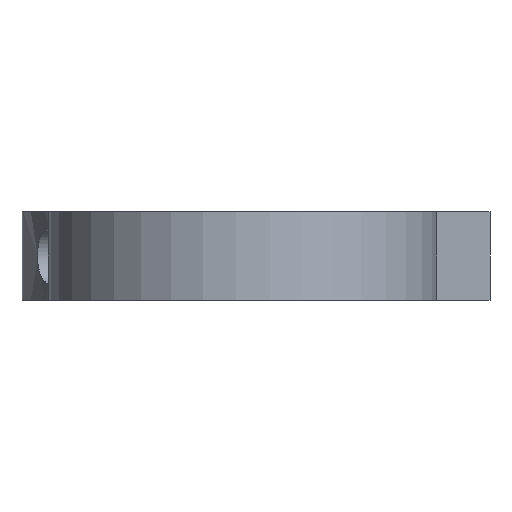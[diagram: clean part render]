
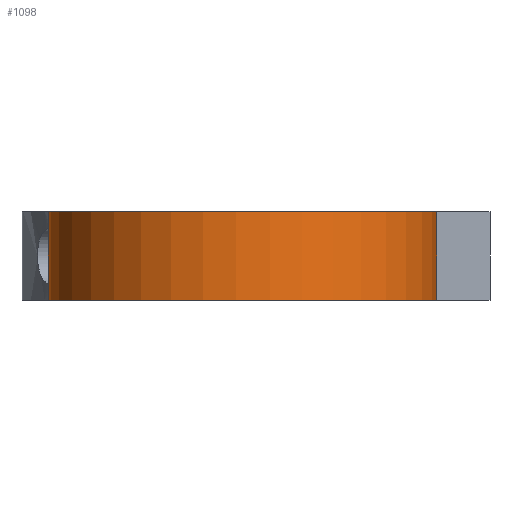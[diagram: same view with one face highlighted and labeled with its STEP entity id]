
A CAD part, front view. The second image highlights one B-rep face of the part: STEP entity #1098.
In plain terms, the highlighted cylindrical face has radius 11 mm (diameter 22 mm), a partial arc.
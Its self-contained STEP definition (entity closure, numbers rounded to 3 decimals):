
#62 = PLANE('',#63);
#63 = AXIS2_PLACEMENT_3D('',#64,#65,#66);
#64 = CARTESIAN_POINT('',(7.55,-34.,0.));
#65 = DIRECTION('',(0.,1.,0.));
#66 = DIRECTION('',(1.,0.,0.));
#90 = PLANE('',#91);
#91 = AXIS2_PLACEMENT_3D('',#92,#93,#94);
#92 = CARTESIAN_POINT('',(0.,0.,5.));
#93 = DIRECTION('',(0.,0.,1.));
#94 = DIRECTION('',(1.,0.,-0.));
#144 = PLANE('',#145);
#145 = AXIS2_PLACEMENT_3D('',#146,#147,#148);
#146 = CARTESIAN_POINT('',(0.,0.,0.));
#147 = DIRECTION('',(0.,0.,1.));
#148 = DIRECTION('',(1.,0.,-0.));
#159 = EDGE_CURVE('',#160,#162,#164,.T.);
#160 = VERTEX_POINT('',#161);
#161 = CARTESIAN_POINT('',(7.55,-34.,0.));
#162 = VERTEX_POINT('',#163);
#163 = CARTESIAN_POINT('',(7.55,-34.,5.));
#164 = SURFACE_CURVE('',#165,(#169,#176),.PCURVE_S1.);
#165 = LINE('',#166,#167);
#166 = CARTESIAN_POINT('',(7.55,-34.,0.));
#167 = VECTOR('',#168,1.);
#168 = DIRECTION('',(0.,0.,1.));
#169 = PCURVE('',#62,#170);
#170 = DEFINITIONAL_REPRESENTATION('',(#171),#175);
#171 = LINE('',#172,#173);
#172 = CARTESIAN_POINT('',(0.,0.));
#173 = VECTOR('',#174,1.);
#174 = DIRECTION('',(0.,-1.));
#175 = ( GEOMETRIC_REPRESENTATION_CONTEXT(2) 
PARAMETRIC_REPRESENTATION_CONTEXT() REPRESENTATION_CONTEXT('2D SPACE',''
  ) );
#176 = PCURVE('',#177,#182);
#177 = CYLINDRICAL_SURFACE('',#178,11.);
#178 = AXIS2_PLACEMENT_3D('',#179,#180,#181);
#179 = CARTESIAN_POINT('',(0.,-42.,0.));
#180 = DIRECTION('',(-0.,-0.,-1.));
#181 = DIRECTION('',(-0.636,0.771,0.));
#182 = DEFINITIONAL_REPRESENTATION('',(#183),#187);
#183 = LINE('',#184,#185);
#184 = CARTESIAN_POINT('',(1.446,0.));
#185 = VECTOR('',#186,1.);
#186 = DIRECTION('',(-0.,-1.));
#187 = ( GEOMETRIC_REPRESENTATION_CONTEXT(2) 
PARAMETRIC_REPRESENTATION_CONTEXT() REPRESENTATION_CONTEXT('2D SPACE',''
  ) );
#338 = VERTEX_POINT('',#339);
#339 = CARTESIAN_POINT('',(-7.,-33.515,0.));
#353 = PLANE('',#354);
#354 = AXIS2_PLACEMENT_3D('',#355,#356,#357);
#355 = CARTESIAN_POINT('',(-7.,-33.515,0.));
#356 = DIRECTION('',(-1.,0.,0.));
#357 = DIRECTION('',(0.,1.,0.));
#365 = EDGE_CURVE('',#338,#160,#366,.T.);
#366 = SURFACE_CURVE('',#367,(#372,#379),.PCURVE_S1.);
#367 = CIRCLE('',#368,11.);
#368 = AXIS2_PLACEMENT_3D('',#369,#370,#371);
#369 = CARTESIAN_POINT('',(0.,-42.,0.));
#370 = DIRECTION('',(0.,0.,1.));
#371 = DIRECTION('',(-0.636,0.771,0.));
#372 = PCURVE('',#144,#373);
#373 = DEFINITIONAL_REPRESENTATION('',(#374),#378);
#374 = CIRCLE('',#375,11.);
#375 = AXIS2_PLACEMENT_2D('',#376,#377);
#376 = CARTESIAN_POINT('',(0.,-42.));
#377 = DIRECTION('',(-0.636,0.771));
#378 = ( GEOMETRIC_REPRESENTATION_CONTEXT(2) 
PARAMETRIC_REPRESENTATION_CONTEXT() REPRESENTATION_CONTEXT('2D SPACE',''
  ) );
#379 = PCURVE('',#177,#380);
#380 = DEFINITIONAL_REPRESENTATION('',(#381),#385);
#381 = LINE('',#382,#383);
#382 = CARTESIAN_POINT('',(6.283,0.));
#383 = VECTOR('',#384,1.);
#384 = DIRECTION('',(-1.,0.));
#385 = ( GEOMETRIC_REPRESENTATION_CONTEXT(2) 
PARAMETRIC_REPRESENTATION_CONTEXT() REPRESENTATION_CONTEXT('2D SPACE',''
  ) );
#753 = VERTEX_POINT('',#754);
#754 = CARTESIAN_POINT('',(-7.,-33.515,5.));
#775 = EDGE_CURVE('',#753,#162,#776,.T.);
#776 = SURFACE_CURVE('',#777,(#782,#789),.PCURVE_S1.);
#777 = CIRCLE('',#778,11.);
#778 = AXIS2_PLACEMENT_3D('',#779,#780,#781);
#779 = CARTESIAN_POINT('',(0.,-42.,5.));
#780 = DIRECTION('',(0.,0.,1.));
#781 = DIRECTION('',(-0.636,0.771,0.));
#782 = PCURVE('',#90,#783);
#783 = DEFINITIONAL_REPRESENTATION('',(#784),#788);
#784 = CIRCLE('',#785,11.);
#785 = AXIS2_PLACEMENT_2D('',#786,#787);
#786 = CARTESIAN_POINT('',(0.,-42.));
#787 = DIRECTION('',(-0.636,0.771));
#788 = ( GEOMETRIC_REPRESENTATION_CONTEXT(2) 
PARAMETRIC_REPRESENTATION_CONTEXT() REPRESENTATION_CONTEXT('2D SPACE',''
  ) );
#789 = PCURVE('',#177,#790);
#790 = DEFINITIONAL_REPRESENTATION('',(#791),#795);
#791 = LINE('',#792,#793);
#792 = CARTESIAN_POINT('',(6.283,-5.));
#793 = VECTOR('',#794,1.);
#794 = DIRECTION('',(-1.,0.));
#795 = ( GEOMETRIC_REPRESENTATION_CONTEXT(2) 
PARAMETRIC_REPRESENTATION_CONTEXT() REPRESENTATION_CONTEXT('2D SPACE',''
  ) );
#1098 = ADVANCED_FACE('',(#1099),#177,.T.);
#1099 = FACE_BOUND('',#1100,.T.);
#1100 = EDGE_LOOP('',(#1101,#1102,#1103,#1104));
#1101 = ORIENTED_EDGE('',*,*,#365,.T.);
#1102 = ORIENTED_EDGE('',*,*,#159,.T.);
#1103 = ORIENTED_EDGE('',*,*,#775,.F.);
#1104 = ORIENTED_EDGE('',*,*,#1105,.F.);
#1105 = EDGE_CURVE('',#338,#753,#1106,.T.);
#1106 = SURFACE_CURVE('',#1107,(#1111,#1118),.PCURVE_S1.);
#1107 = LINE('',#1108,#1109);
#1108 = CARTESIAN_POINT('',(-7.,-33.515,0.));
#1109 = VECTOR('',#1110,1.);
#1110 = DIRECTION('',(0.,0.,1.));
#1111 = PCURVE('',#177,#1112);
#1112 = DEFINITIONAL_REPRESENTATION('',(#1113),#1117);
#1113 = LINE('',#1114,#1115);
#1114 = CARTESIAN_POINT('',(6.283,0.));
#1115 = VECTOR('',#1116,1.);
#1116 = DIRECTION('',(-0.,-1.));
#1117 = ( GEOMETRIC_REPRESENTATION_CONTEXT(2) 
PARAMETRIC_REPRESENTATION_CONTEXT() REPRESENTATION_CONTEXT('2D SPACE',''
  ) );
#1118 = PCURVE('',#353,#1119);
#1119 = DEFINITIONAL_REPRESENTATION('',(#1120),#1124);
#1120 = LINE('',#1121,#1122);
#1121 = CARTESIAN_POINT('',(0.,0.));
#1122 = VECTOR('',#1123,1.);
#1123 = DIRECTION('',(0.,-1.));
#1124 = ( GEOMETRIC_REPRESENTATION_CONTEXT(2) 
PARAMETRIC_REPRESENTATION_CONTEXT() REPRESENTATION_CONTEXT('2D SPACE',''
  ) );
